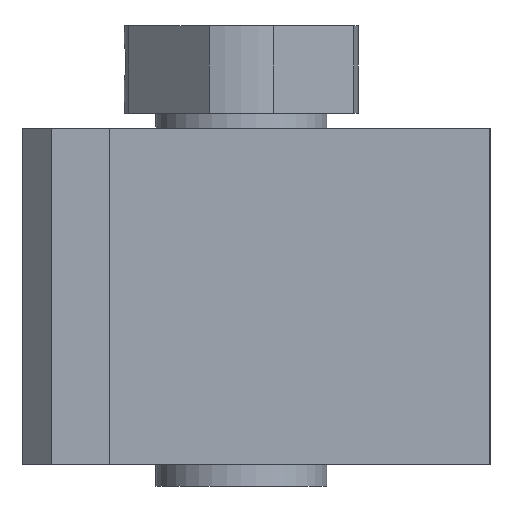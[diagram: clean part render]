
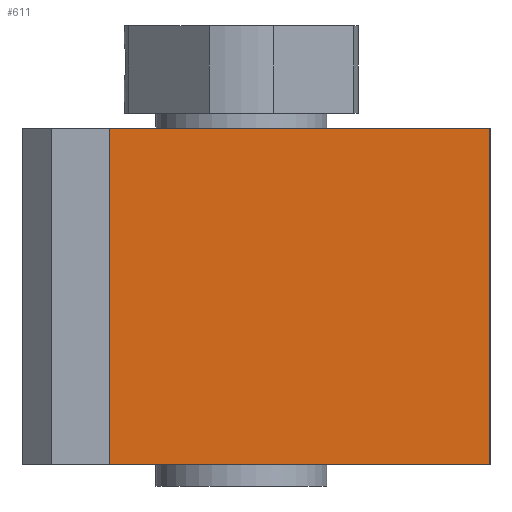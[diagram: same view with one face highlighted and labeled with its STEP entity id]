
A CAD part, left-side view. The second image highlights one B-rep face of the part: STEP entity #611.
In plain terms, the highlighted planar face has unit normal (-1, 0, 0).
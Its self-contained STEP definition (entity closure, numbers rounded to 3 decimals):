
#20=LINE($,#1032,#66);
#38=LINE($,#1072,#84);
#55=LINE($,#1146,#101);
#56=LINE($,#1147,#102);
#66=VECTOR($,#713,26.);
#84=VECTOR($,#741,26.);
#101=VECTOR($,#834,23.);
#102=VECTOR($,#835,23.);
#128=FACE_OUTER_BOUND($,#239,.T.);
#239=EDGE_LOOP($,(#531,#532,#533,#534));
#293=VERTEX_POINT($,#1029);
#294=VERTEX_POINT($,#1031);
#310=VERTEX_POINT($,#1069);
#311=VERTEX_POINT($,#1071);
#351=EDGE_CURVE($,#293,#294,#20,.T.);
#371=EDGE_CURVE($,#311,#310,#38,.T.);
#403=EDGE_CURVE($,#310,#294,#55,.T.);
#404=EDGE_CURVE($,#311,#293,#56,.T.);
#531=ORIENTED_EDGE($,*,*,#371,.T.);
#532=ORIENTED_EDGE($,*,*,#403,.T.);
#533=ORIENTED_EDGE($,*,*,#351,.F.);
#534=ORIENTED_EDGE($,*,*,#404,.F.);
#575=PLANE($,#674);
#611=ADVANCED_FACE($,(#128),#575,.T.);
#674=AXIS2_PLACEMENT_3D($,#1145,#832,#833);
#713=DIRECTION($,(0.,-1.,0.));
#741=DIRECTION($,(0.,-1.,0.));
#832=DIRECTION('center_axis',(-1.,0.,0.));
#833=DIRECTION('ref_axis',(0.,-1.,0.));
#834=DIRECTION($,(0.,0.,1.));
#835=DIRECTION($,(0.,0.,1.));
#1029=CARTESIAN_POINT('',(0.,26.,23.));
#1031=CARTESIAN_POINT('',(0.,0.,23.));
#1032=CARTESIAN_POINT($,(0.,26.,23.));
#1069=CARTESIAN_POINT('',(0.,0.,0.));
#1071=CARTESIAN_POINT('',(0.,26.,0.));
#1072=CARTESIAN_POINT($,(0.,26.,0.));
#1145=CARTESIAN_POINT('Origin',(0.,26.,0.));
#1146=CARTESIAN_POINT($,(0.,0.,0.));
#1147=CARTESIAN_POINT($,(0.,26.,0.));
